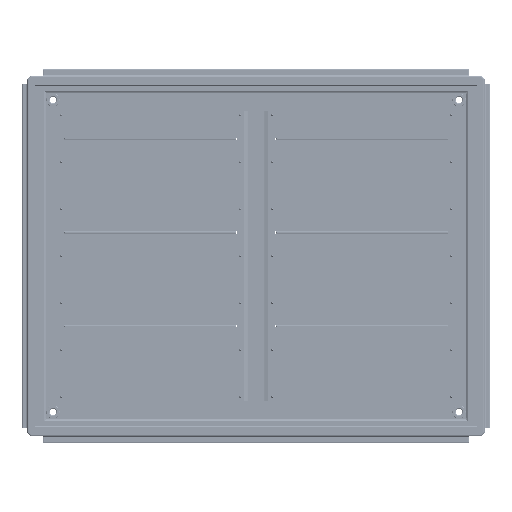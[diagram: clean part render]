
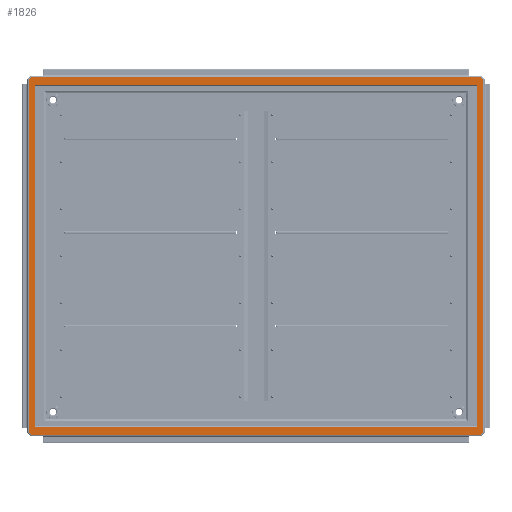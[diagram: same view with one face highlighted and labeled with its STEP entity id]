
A CAD part, front view. The second image highlights one B-rep face of the part: STEP entity #1826.
In plain terms, the highlighted planar face has unit normal (0, -1, 0).
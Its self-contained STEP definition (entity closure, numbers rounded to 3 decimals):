
#1826=ADVANCED_FACE('',(#41329,#41331),#41333,.T.);
#41329=FACE_BOUND('',#41330,.T.);
#41330=EDGE_LOOP('',(#122367,#122368,#122369,#122370,#122371,#122372,#122373,#122374));
#41331=FACE_BOUND('',#41332,.T.);
#41332=EDGE_LOOP('',(#122375,#122376,#122377,#122378));
#41333=PLANE('',#41334);
#41334=AXIS2_PLACEMENT_3D('',#41335,#41336,#41337);
#41335=CARTESIAN_POINT('',(262.2,0.,-564.9));
#41336=DIRECTION('',(0.,-1.,0.));
#41337=DIRECTION('',(0.,0.,1.));
#122367=ORIENTED_EDGE('',*,*,#170149,.F.);
#122368=ORIENTED_EDGE('',*,*,#170150,.F.);
#122369=ORIENTED_EDGE('',*,*,#170151,.T.);
#122370=ORIENTED_EDGE('',*,*,#170152,.T.);
#122371=ORIENTED_EDGE('',*,*,#170153,.F.);
#122372=ORIENTED_EDGE('',*,*,#170154,.T.);
#122373=ORIENTED_EDGE('',*,*,#170155,.T.);
#122374=ORIENTED_EDGE('',*,*,#170156,.F.);
#122375=ORIENTED_EDGE('',*,*,#170157,.T.);
#122376=ORIENTED_EDGE('',*,*,#170158,.T.);
#122377=ORIENTED_EDGE('',*,*,#170159,.F.);
#122378=ORIENTED_EDGE('',*,*,#170160,.T.);
#170149=EDGE_CURVE('',#194144,#194145,#194146,.T.);
#170150=EDGE_CURVE('',#194147,#194144,#194148,.T.);
#170151=EDGE_CURVE('',#194147,#194149,#194150,.T.);
#170152=EDGE_CURVE('',#194149,#194151,#194152,.T.);
#170153=EDGE_CURVE('',#194153,#194151,#194154,.T.);
#170154=EDGE_CURVE('',#194153,#194155,#194156,.T.);
#170155=EDGE_CURVE('',#194155,#194157,#194158,.T.);
#170156=EDGE_CURVE('',#194145,#194157,#194159,.T.);
#170157=EDGE_CURVE('',#194160,#194161,#194162,.T.);
#170158=EDGE_CURVE('',#194161,#194163,#194164,.T.);
#170159=EDGE_CURVE('',#194165,#194163,#194166,.T.);
#170160=EDGE_CURVE('',#194165,#194160,#194167,.T.);
#194144=VERTEX_POINT('',#235312);
#194145=VERTEX_POINT('',#235313);
#194146=LINE('',#235314,#235315);
#194147=VERTEX_POINT('',#235317);
#194148=LINE('',#235318,#235319);
#194149=VERTEX_POINT('',#235321);
#194150=LINE('',#235322,#235323);
#194151=VERTEX_POINT('',#235325);
#194152=LINE('',#235326,#235327);
#194153=VERTEX_POINT('',#235329);
#194154=LINE('',#235330,#235331);
#194155=VERTEX_POINT('',#235333);
#194156=LINE('',#235334,#235335);
#194157=VERTEX_POINT('',#235337);
#194158=LINE('',#235338,#235339);
#194159=LINE('',#235341,#235342);
#194160=VERTEX_POINT('',#235344);
#194161=VERTEX_POINT('',#235345);
#194162=LINE('',#235346,#235347);
#194163=VERTEX_POINT('',#235349);
#194164=LINE('',#235350,#235351);
#194165=VERTEX_POINT('',#235353);
#194166=LINE('',#235354,#235355);
#194167=LINE('',#235357,#235358);
#235312=CARTESIAN_POINT('',(566.716,0.,-3.1));
#235313=CARTESIAN_POINT('',(571.9,0.,-8.284));
#235314=CARTESIAN_POINT('',(566.716,0.,-3.1));
#235315=VECTOR('',#235316,1.);
#235316=DIRECTION('',(0.707,0.,-0.707));
#235317=CARTESIAN_POINT('',(-391.716,0.,-3.1));
#235318=CARTESIAN_POINT('',(-391.716,0.,-3.1));
#235319=VECTOR('',#235320,1.);
#235320=DIRECTION('',(1.,0.,0.));
#235321=CARTESIAN_POINT('',(-396.9,0.,-8.284));
#235322=CARTESIAN_POINT('',(-391.716,0.,-3.1));
#235323=VECTOR('',#235324,1.);
#235324=DIRECTION('',(-0.707,0.,-0.707));
#235325=CARTESIAN_POINT('',(-396.9,0.,-759.716));
#235326=CARTESIAN_POINT('',(-396.9,0.,-8.284));
#235327=VECTOR('',#235328,1.);
#235328=DIRECTION('',(0.,0.,-1.));
#235329=CARTESIAN_POINT('',(-391.716,0.,-764.9));
#235330=CARTESIAN_POINT('',(-391.716,0.,-764.9));
#235331=VECTOR('',#235332,1.);
#235332=DIRECTION('',(-0.707,0.,0.707));
#235333=CARTESIAN_POINT('',(566.716,0.,-764.9));
#235334=CARTESIAN_POINT('',(-391.716,0.,-764.9));
#235335=VECTOR('',#235336,1.);
#235336=DIRECTION('',(1.,0.,0.));
#235337=CARTESIAN_POINT('',(571.9,0.,-759.716));
#235338=CARTESIAN_POINT('',(566.716,0.,-764.9));
#235339=VECTOR('',#235340,1.);
#235340=DIRECTION('',(0.707,0.,0.707));
#235341=CARTESIAN_POINT('',(571.9,0.,-8.284));
#235342=VECTOR('',#235343,1.);
#235343=DIRECTION('',(0.,0.,-1.));
#235344=CARTESIAN_POINT('',(-383.591,0.,-19.899));
#235345=CARTESIAN_POINT('',(558.591,0.,-19.899));
#235346=CARTESIAN_POINT('',(-383.591,0.,-19.899));
#235347=VECTOR('',#235348,1.);
#235348=DIRECTION('',(1.,0.,0.));
#235349=CARTESIAN_POINT('',(558.591,0.,-748.101));
#235350=CARTESIAN_POINT('',(558.591,0.,-19.899));
#235351=VECTOR('',#235352,1.);
#235352=DIRECTION('',(0.,0.,-1.));
#235353=CARTESIAN_POINT('',(-383.591,0.,-748.101));
#235354=CARTESIAN_POINT('',(-383.591,0.,-748.101));
#235355=VECTOR('',#235356,1.);
#235356=DIRECTION('',(1.,0.,0.));
#235357=CARTESIAN_POINT('',(-383.591,0.,-748.101));
#235358=VECTOR('',#235359,1.);
#235359=DIRECTION('',(0.,0.,1.));
